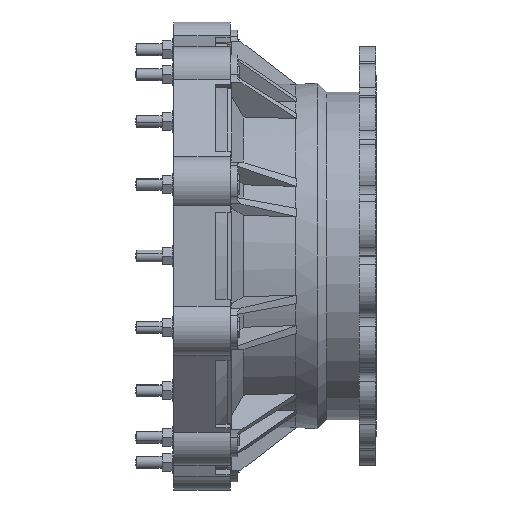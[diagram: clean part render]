
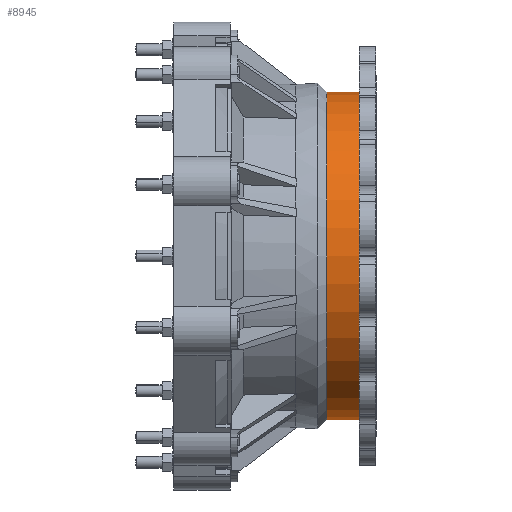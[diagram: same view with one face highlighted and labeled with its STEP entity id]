
A CAD part, left-side view. The second image highlights one B-rep face of the part: STEP entity #8945.
In plain terms, the highlighted cylindrical face has radius 276 mm (diameter 552 mm), a partial arc.
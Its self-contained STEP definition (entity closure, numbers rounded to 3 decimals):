
#2146=DIRECTION('',(0.,1.,0.));
#2147=VECTOR('',#2146,54.353);
#2148=CARTESIAN_POINT('',(259.355,-72.5,-94.398));
#2149=LINE('',#2148,#2147);
#2150=CARTESIAN_POINT('',(0.,-72.5,0.));
#2151=DIRECTION('',(0.,-1.,0.));
#2152=DIRECTION('',(0.94,0.,-0.342));
#2153=AXIS2_PLACEMENT_3D('',#2150,#2151,#2152);
#2155=DIRECTION('',(0.,-1.,0.));
#2156=VECTOR('',#2155,54.353);
#2157=CARTESIAN_POINT('',(138.,-18.147,-239.023));
#2158=LINE('',#2157,#2156);
#2182=CARTESIAN_POINT('',(0.,-18.147,0.));
#2183=DIRECTION('',(0.,-1.,0.));
#2184=DIRECTION('',(0.94,0.,-0.342));
#2185=AXIS2_PLACEMENT_3D('',#2182,#2183,#2184);
#5894=CARTESIAN_POINT('',(259.355,-72.5,-94.398));
#5895=CARTESIAN_POINT('',(259.355,-18.147,
-94.398));
#5896=VERTEX_POINT('',#5894);
#5897=VERTEX_POINT('',#5895);
#5902=CARTESIAN_POINT('',(138.,-72.5,-239.023));
#5903=VERTEX_POINT('',#5902);
#5906=CARTESIAN_POINT('',(138.,-18.147,-239.023));
#5907=VERTEX_POINT('',#5906);
#8931=CARTESIAN_POINT('',(0.,162.5,0.));
#8932=DIRECTION('',(0.,-1.,0.));
#8933=DIRECTION('',(-1.,0.,0.));
#8934=AXIS2_PLACEMENT_3D('',#8931,#8932,#8933);
#8935=CYLINDRICAL_SURFACE('',#8934,276.);
#8937=ORIENTED_EDGE('',*,*,#8936,.F.);
#8938=ORIENTED_EDGE('',*,*,#8685,.T.);
#8940=ORIENTED_EDGE('',*,*,#8939,.F.);
#8942=ORIENTED_EDGE('',*,*,#8941,.F.);
#8943=EDGE_LOOP('',(#8937,#8938,#8940,#8942));
#8944=FACE_OUTER_BOUND('',#8943,.F.);
#8945=ADVANCED_FACE('',(#8944),#8935,.T.);
#2154=CIRCLE('',#2153,276.);
#2186=CIRCLE('',#2185,276.);
#8685=EDGE_CURVE('',#5896,#5903,#2154,.T.);
#8936=EDGE_CURVE('',#5896,#5897,#2149,.T.);
#8939=EDGE_CURVE('',#5907,#5903,#2158,.T.);
#8941=EDGE_CURVE('',#5897,#5907,#2186,.T.);
